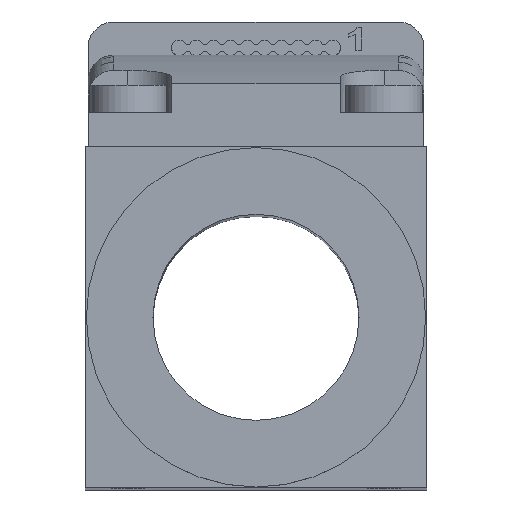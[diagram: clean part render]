
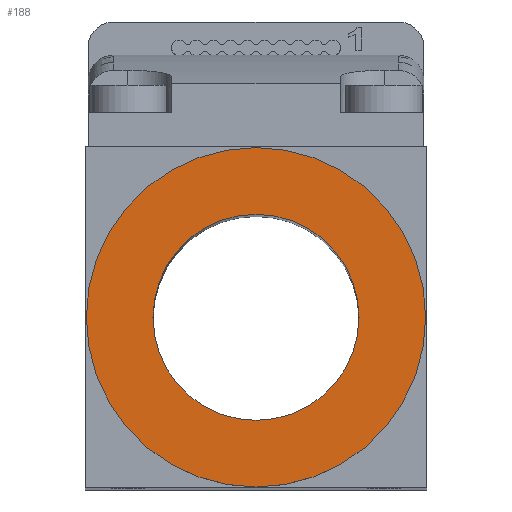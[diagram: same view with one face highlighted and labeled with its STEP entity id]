
A CAD part, top view. The second image highlights one B-rep face of the part: STEP entity #188.
In plain terms, the highlighted planar face has unit normal (0, 0, 1).
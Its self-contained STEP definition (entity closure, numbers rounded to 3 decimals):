
#188=ADVANCED_FACE('',(#356,#357),#272,.T.);
#272=PLANE('',#1939);
#356=FACE_BOUND('',#428,.T.);
#357=FACE_BOUND('',#429,.T.);
#428=EDGE_LOOP('',(#797));
#429=EDGE_LOOP('',(#798));
#583=CIRCLE('',#1936,9.95);
#584=CIRCLE('',#1938,6.04);
#797=ORIENTED_EDGE('',*,*,#1457,.T.);
#798=ORIENTED_EDGE('',*,*,#1456,.F.);
#1254=VERTEX_POINT('',#2968);
#1255=VERTEX_POINT('',#2971);
#1456=EDGE_CURVE('',#1254,#1254,#583,.T.);
#1457=EDGE_CURVE('',#1255,#1255,#584,.T.);
#1936=AXIS2_PLACEMENT_3D('',#2967,#2295,#2296);
#1938=AXIS2_PLACEMENT_3D('',#2970,#2299,#2300);
#1939=AXIS2_PLACEMENT_3D('',#2972,#2301,#2302);
#2295=DIRECTION('',(0.,0.,-1.));
#2296=DIRECTION('',(1.,0.,0.));
#2299=DIRECTION('',(0.,0.,-1.));
#2300=DIRECTION('',(-1.,0.,0.));
#2301=DIRECTION('',(0.,0.,1.));
#2302=DIRECTION('',(1.,0.,0.));
#2967=CARTESIAN_POINT('',(0.,0.,0.));
#2968=CARTESIAN_POINT('',(9.95,0.,0.));
#2970=CARTESIAN_POINT('',(0.,0.,0.));
#2971=CARTESIAN_POINT('',(-6.04,0.,0.));
#2972=CARTESIAN_POINT('',(0.,0.,0.));
